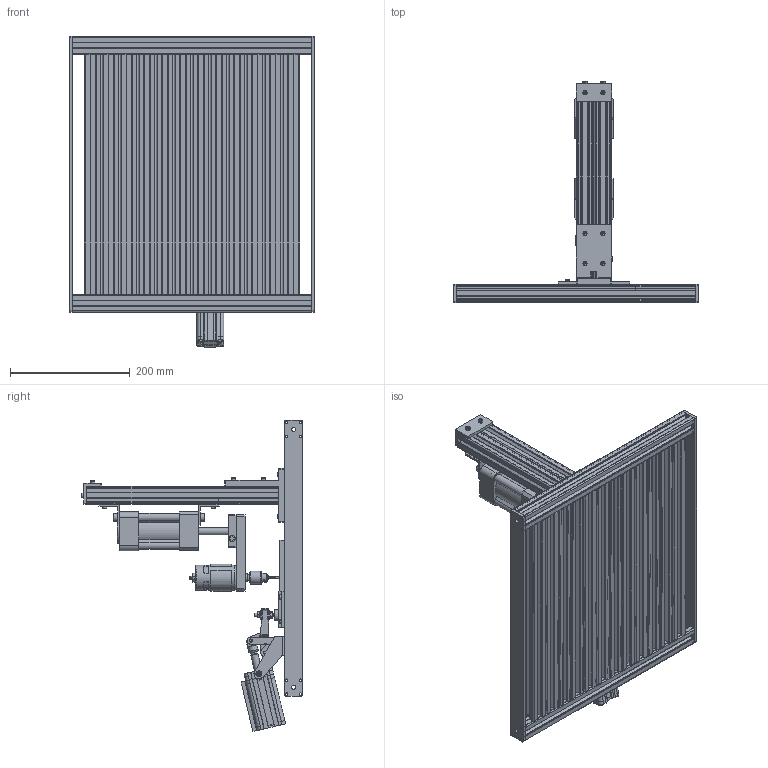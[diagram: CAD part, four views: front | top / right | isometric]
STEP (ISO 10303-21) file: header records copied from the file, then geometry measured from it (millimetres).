
FILE_DESCRIPTION(/* description */ (''),/* implementation_level */ '2;1');
FILE_NAME(/* name */ 'C:\Users\admin\Desktop\inventor\foratura_pneumatica\step\automazione_foratura.stp',/* time_stamp */ '2021-11-02T16:48:48+01:00',/* author */ ('admin'),/* organization */ (''),/* preprocessor_version */ 'ST-DEVELOPER v18.1',/* originating_system */ 'Autodesk Inventor 2022',/* authorisation */ '');
FILE_SCHEMA (('AUTOMOTIVE_DESIGN { 1 0 10303 214 3 1 1 }'));
Products named in the file (58): automazione_foratura; 30X30 - T-slot 40cm_MIR; 30X30 - T-slot 40cm; piatto_chiusura; 1602p_c; 1602p_c_01; 1602p_c_02; 1602p_c_03; 1602p_c_04; 1602p_c_06; 1602p_c_07; 1602p_c_08; 1602p_c_10; 1602p_c_11; 1602p_c_12; 1602p_c_16; 1602p_c_17; 1602p_c_18; 1602p_c_19; 1602p_c_21; 1602p_c_23; 1602p_c_24; 1602p_c_25; 1602p_c_26; 1602p_c_27; 1602p_c_28; 1602p_c_29; 1602p_c_30; 1602p_c_33; 1602p_c_37; 1602p_c_38; 208S320040AN/40-1-0--; SSCY_DI32-208-40-BR; SSCY_DI32-HF; SSCY_DI32-208-HR; SSCY_DI32-RR; SSCY_DI32-208-40-RD; supporto_frontale; 1602p_c_15; AS 1420 - 1973 - M5 x 14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
Assembly tree (101 placements, depth 4):
  automazione_foratura
    30X30 - T-slot 40cm  x13
    30X30 - T-slot 40cm_MIR
    piatto_chiusura  x2
    1602p_c
      1602p_c_01
      1602p_c_02
      1602p_c_03
      1602p_c_04
      1602p_c_06
      1602p_c_07
      1602p_c_08
      1602p_c_10
      1602p_c_11
      1602p_c_12
      1602p_c_15  x2
      1602p_c_16
      1602p_c_17
      1602p_c_18
      1602p_c_19
      1602p_c_21
      1602p_c_23
      1602p_c_24
      1602p_c_25
      1602p_c_26
      1602p_c_27
      1602p_c_28
      1602p_c_29
      1602p_c_30
      1602p_c_33
      1602p_c_37
      1602p_c_38
      208S320040AN/40-1-0--
        SSCY_DI32-208-40-BR
        SSCY_DI32-HF
        SSCY_DI32-RR  x2
        SSCY_DI32-208-HR
        SSCY_DI32-208-40-RD
        supporto_frontale
      AS 1420 - 1973 - M5 x 14  x4
      AS 1420 - 1973 - M4 x 12  x4
    lamierino
    supporto_trapano
    Motor DC 12-24VDC v9
    punta_4
    W1400500025/0-1-0-0-0
      Left head 50
      Barrel 5025
      Right head 500
      Piston rod 50250
      Flange 50
      W0950503001-42_  x2
      Cylinder head screw DIN 912 M8x20  x4
    30X30 - T-slot 30cm  x2
    supporto_trapano2
    AS 1420 - 1973 - M4 x 12  x18
    elle_60_30
    blocco_30_elle
    blocco_30_elle_2
Bounding box: 410 x 369 x 519.09 mm (x, y, z)
Volume: 3149875.2 mm3; surface area: 2390470.3 mm2
Topology: 101 solids, 101 shells, 3824 faces, 10271 edges, 6783 vertices
Faces by surface type: plane 2600, cylinder 909, cone 154, bspline 82, torus 74, sphere 5
Full cylindrical faces by diameter (mm): 2 x8, 2.5 x2, 3 x7, 3.5 x2, 3.599 x2, 3.9 x1, 4 x41, 4.917 x2, 5 x45, 5.2 x4, 5.459 x1, 5.5 x8, 6 x1, 6.2 x2, 6.5 x3, 6.647 x12, 6.8 x22, 7 x35, 8 x14, 8.2 x2, 8.5 x4, 8.566 x2, 8.7 x2, 9 x8, 10 x21, 10.5 x2, 11.445 x2, 12 x6, 12.7 x1, 13 x12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
Entity records: 65922 total; most frequent: CARTESIAN_POINT 15762, DIRECTION 9985, ORIENTED_EDGE 9684, EDGE_CURVE 4842, AXIS2_PLACEMENT_3D 3471, VERTEX_POINT 3183, LINE 3043, VECTOR 3043
